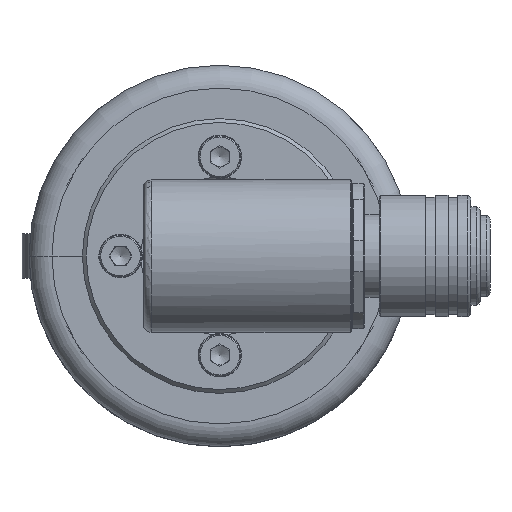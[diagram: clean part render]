
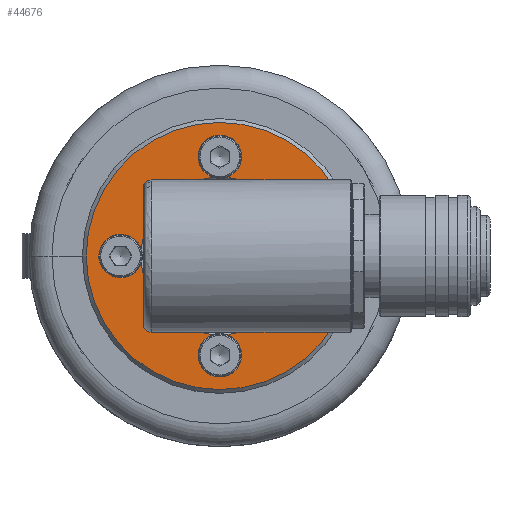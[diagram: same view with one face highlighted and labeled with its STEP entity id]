
A CAD part, left-side view. The second image highlights one B-rep face of the part: STEP entity #44676.
In plain terms, the highlighted planar face has unit normal (-1, 0, 0).
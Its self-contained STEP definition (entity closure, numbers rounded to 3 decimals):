
#2825 = AXIS2_PLACEMENT_3D ( 'NONE', #70869, #51592, #90798 ) ;
#4866 = CIRCLE ( 'NONE', #66587, 10.35 ) ;
#6623 = CARTESIAN_POINT ( 'NONE',  ( -58.55, 0., -13. ) ) ;
#7399 = EDGE_CURVE ( 'NONE', #87201, #75751, #82430, .T. ) ;
#9643 = EDGE_CURVE ( 'NONE', #102096, #67177, #89625, .T. ) ;
#10070 = CARTESIAN_POINT ( 'NONE',  ( -58.55, 0., 17.5 ) ) ;
#12321 = VERTEX_POINT ( 'NONE', #95694 ) ;
#12464 = CARTESIAN_POINT ( 'NONE',  ( -58.55, 13., 0. ) ) ;
#12817 = EDGE_CURVE ( 'NONE', #87201, #12321, #98696, .T. ) ;
#14411 = CARTESIAN_POINT ( 'NONE',  ( -58.55, 0., 13. ) ) ;
#19616 = DIRECTION ( 'NONE',  ( 0., 0., 1. ) ) ;
#19911 = ORIENTED_EDGE ( 'NONE', *, *, #12817, .T. ) ;
#20890 = DIRECTION ( 'NONE',  ( -1., 0., 0. ) ) ;
#23470 = CIRCLE ( 'NONE', #2825, 17.5 ) ;
#24106 = CARTESIAN_POINT ( 'NONE',  ( -58.55, 0., 0. ) ) ;
#29130 = CIRCLE ( 'NONE', #55988, 2.85 ) ;
#29225 = DIRECTION ( 'NONE',  ( 1., 0., 0. ) ) ;
#31237 = VERTEX_POINT ( 'NONE', #10070 ) ;
#31781 = EDGE_LOOP ( 'NONE', ( #52880, #49211, #110274, #19911, #106783, #62855, #125723, #91698 ) ) ;
#33953 = CARTESIAN_POINT ( 'NONE',  ( -58.55, -13., 0. ) ) ;
#34099 = AXIS2_PLACEMENT_3D ( 'NONE', #117379, #29225, #19616 ) ;
#34881 = ORIENTED_EDGE ( 'NONE', *, *, #49766, .T. ) ;
#39424 = EDGE_CURVE ( 'NONE', #44032, #75751, #4866, .T. ) ;
#39526 = DIRECTION ( 'NONE',  ( 0., 0., 1. ) ) ;
#40340 = CARTESIAN_POINT ( 'NONE',  ( -58.55, 0., 0. ) ) ;
#41728 = CIRCLE ( 'NONE', #125991, 2.85 ) ;
#43064 = DIRECTION ( 'NONE',  ( 0., 0., 1. ) ) ;
#43240 = AXIS2_PLACEMENT_3D ( 'NONE', #108886, #70221, #117812 ) ;
#44032 = VERTEX_POINT ( 'NONE', #107218 ) ;
#44201 = CARTESIAN_POINT ( 'NONE',  ( -58.55, 0.935, -10.308 ) ) ;
#44676 = ADVANCED_FACE ( 'NONE', ( #101524, #117704 ), #52613, .T. ) ;
#48313 = EDGE_CURVE ( 'NONE', #44032, #125127, #29130, .T. ) ;
#49211 = ORIENTED_EDGE ( 'NONE', *, *, #39424, .T. ) ;
#49766 = EDGE_CURVE ( 'NONE', #31237, #31237, #23470, .T. ) ;
#51592 = DIRECTION ( 'NONE',  ( -1., 0., 0. ) ) ;
#52613 = PLANE ( 'NONE',  #116431 ) ;
#52880 = ORIENTED_EDGE ( 'NONE', *, *, #48313, .F. ) ;
#53762 = DIRECTION ( 'NONE',  ( -1., 0., 0. ) ) ;
#55802 = CARTESIAN_POINT ( 'NONE',  ( -58.55, 0., 0. ) ) ;
#55988 = AXIS2_PLACEMENT_3D ( 'NONE', #33953, #120853, #43064 ) ;
#56860 = CARTESIAN_POINT ( 'NONE',  ( -58.55, 0.935, 10.308 ) ) ;
#59892 = AXIS2_PLACEMENT_3D ( 'NONE', #6623, #103289, #74884 ) ;
#62855 = ORIENTED_EDGE ( 'NONE', *, *, #9643, .T. ) ;
#64169 = DIRECTION ( 'NONE',  ( -1., 0., 0. ) ) ;
#66587 = AXIS2_PLACEMENT_3D ( 'NONE', #24106, #114746, #93547 ) ;
#67177 = VERTEX_POINT ( 'NONE', #56860 ) ;
#69097 = CARTESIAN_POINT ( 'NONE',  ( -58.55, -0.935, -10.308 ) ) ;
#70221 = DIRECTION ( 'NONE',  ( 1., 0., 0. ) ) ;
#70869 = CARTESIAN_POINT ( 'NONE',  ( -58.55, 0., 0. ) ) ;
#71354 = VERTEX_POINT ( 'NONE', #120105 ) ;
#74884 = DIRECTION ( 'NONE',  ( 0., 0., 1. ) ) ;
#75580 = CIRCLE ( 'NONE', #114643, 10.35 ) ;
#75751 = VERTEX_POINT ( 'NONE', #69097 ) ;
#75963 = CARTESIAN_POINT ( 'NONE',  ( -58.55, 10.308, 0.935 ) ) ;
#76203 = EDGE_LOOP ( 'NONE', ( #34881 ) ) ;
#78618 = EDGE_CURVE ( 'NONE', #102096, #12321, #123504, .T. ) ;
#79610 = DIRECTION ( 'NONE',  ( 1., 0., 0. ) ) ;
#82430 = CIRCLE ( 'NONE', #59892, 2.85 ) ;
#84507 = AXIS2_PLACEMENT_3D ( 'NONE', #12464, #20890, #39526 ) ;
#84671 = DIRECTION ( 'NONE',  ( 0., 0., 1. ) ) ;
#85787 = EDGE_CURVE ( 'NONE', #71354, #125127, #75580, .T. ) ;
#87201 = VERTEX_POINT ( 'NONE', #44201 ) ;
#89625 = CIRCLE ( 'NONE', #34099, 10.35 ) ;
#90798 = DIRECTION ( 'NONE',  ( 0., 0., 1. ) ) ;
#91698 = ORIENTED_EDGE ( 'NONE', *, *, #85787, .T. ) ;
#91735 = EDGE_CURVE ( 'NONE', #71354, #67177, #41728, .T. ) ;
#93547 = DIRECTION ( 'NONE',  ( 0., 0., 1. ) ) ;
#95694 = CARTESIAN_POINT ( 'NONE',  ( -58.55, 10.308, -0.935 ) ) ;
#98696 = CIRCLE ( 'NONE', #43240, 10.35 ) ;
#101524 = FACE_OUTER_BOUND ( 'NONE', #76203, .T. ) ;
#102096 = VERTEX_POINT ( 'NONE', #75963 ) ;
#103289 = DIRECTION ( 'NONE',  ( -1., 0., 0. ) ) ;
#106783 = ORIENTED_EDGE ( 'NONE', *, *, #78618, .F. ) ;
#107218 = CARTESIAN_POINT ( 'NONE',  ( -58.55, -10.308, -0.935 ) ) ;
#108886 = CARTESIAN_POINT ( 'NONE',  ( -58.55, 0., 0. ) ) ;
#110274 = ORIENTED_EDGE ( 'NONE', *, *, #7399, .F. ) ;
#114643 = AXIS2_PLACEMENT_3D ( 'NONE', #40340, #79610, #120087 ) ;
#114746 = DIRECTION ( 'NONE',  ( 1., 0., 0. ) ) ;
#116431 = AXIS2_PLACEMENT_3D ( 'NONE', #55802, #64169, #84671 ) ;
#117379 = CARTESIAN_POINT ( 'NONE',  ( -58.55, 0., 0. ) ) ;
#117704 = FACE_BOUND ( 'NONE', #31781, .T. ) ;
#117812 = DIRECTION ( 'NONE',  ( 0., 0., 1. ) ) ;
#120087 = DIRECTION ( 'NONE',  ( 0., 0., 1. ) ) ;
#120105 = CARTESIAN_POINT ( 'NONE',  ( -58.55, -0.935, 10.308 ) ) ;
#120853 = DIRECTION ( 'NONE',  ( -1., 0., 0. ) ) ;
#123504 = CIRCLE ( 'NONE', #84507, 2.85 ) ;
#123761 = DIRECTION ( 'NONE',  ( 0., 0., 1. ) ) ;
#124405 = CARTESIAN_POINT ( 'NONE',  ( -58.55, -10.308, 0.935 ) ) ;
#125127 = VERTEX_POINT ( 'NONE', #124405 ) ;
#125723 = ORIENTED_EDGE ( 'NONE', *, *, #91735, .F. ) ;
#125991 = AXIS2_PLACEMENT_3D ( 'NONE', #14411, #53762, #123761 ) ;
